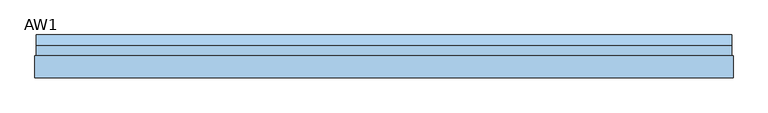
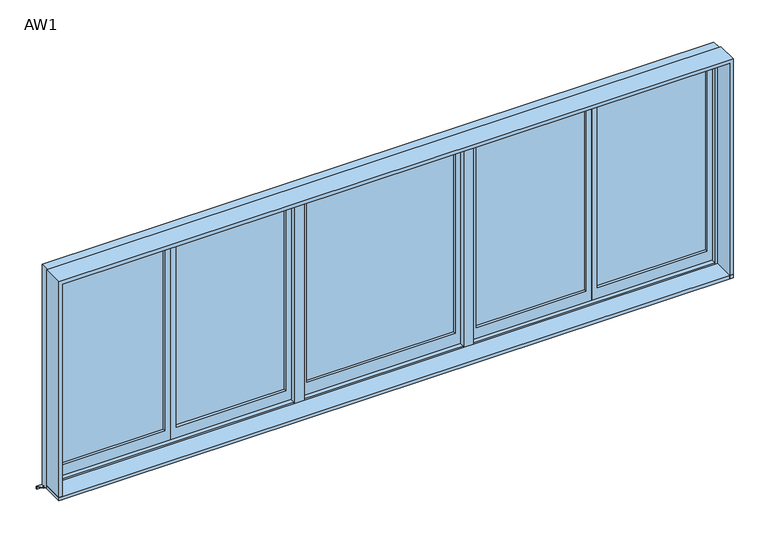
"""IFC4 building model written with IfcOpenShell, lengths in millimetres: window geometry, 営_連窓_両開き戸2+FIX1 : AW1."""

from ifc_helpers import new_model, si_unit, frame, origin, place, context, project, spatial, polyline, outline, extrude, source, transform, mapped, element, save


def aw1_ddd8473e(model_context):
    return source(origin(), model_context, "Body", "SweptSolid", [
        extrude(outline(polyline([(1465.0, 10.0), (680.0, 10.0), (680.0, 15.0), (1465.0, 15.0), (1465.0, 10.0)])), frame((0.0, 0.0, 1180.0), z_axis=(0.0, 0.0, 1.0), x_axis=(1.0, 0.0, 0.0)), (0.0, 0.0, 1.0), 1465.0),
        extrude(outline(polyline([(1100.0, 1505.0), (2685.0, 1505.0), (2685.0, 640.0), (1100.0, 640.0), (1100.0, 1505.0)]), holes=[polyline([(1180.0, 1465.0), (1180.0, 680.0), (2645.0, 680.0), (2645.0, 1465.0), (1180.0, 1465.0)])]), frame((0.0, -10.0, 0.0), z_axis=(0.0, 1.0, 0.0), x_axis=(0.0, 0.0, 1.0)), (0.0, 0.0, 1.0), 30.0),
        extrude(outline(polyline([(2330.0, 10.0), (1545.0, 10.0), (1545.0, 15.0), (2330.0, 15.0), (2330.0, 10.0)])), frame((0.0, 0.0, 1180.0), z_axis=(0.0, 0.0, 1.0), x_axis=(1.0, 0.0, 0.0)), (0.0, 0.0, 1.0), 1465.0),
        extrude(outline(polyline([(1100.0, 2370.0), (2685.0, 2370.0), (2685.0, 1505.0), (1100.0, 1505.0), (1100.0, 2370.0)]), holes=[polyline([(1180.0, 2330.0), (1180.0, 1545.0), (2645.0, 1545.0), (2645.0, 2330.0), (1180.0, 2330.0)])]), frame((0.0, -10.0, 0.0), z_axis=(0.0, 1.0, 0.0), x_axis=(0.0, 0.0, 1.0)), (0.0, 0.0, 1.0), 30.0),
        extrude(outline(polyline([(530.0, 10.0), (-530.0, 10.0), (-530.0, 15.0), (530.0, 15.0), (530.0, 10.0)])), frame((0.0, 0.0, 1190.0), z_axis=(0.0, 0.0, 1.0), x_axis=(1.0, 0.0, 0.0)), (0.0, 0.0, 1.0), 1455.0),
        extrude(outline(polyline([(1100.0, 570.0), (2685.0, 570.0), (2685.0, -570.0), (1100.0, -570.0), (1100.0, 570.0)]), holes=[polyline([(1190.0, 530.0), (1190.0, -530.0), (2645.0, -530.0), (2645.0, 530.0), (1190.0, 530.0)])]), frame((0.0, -10.0, 0.0), z_axis=(0.0, 1.0, 0.0), x_axis=(0.0, 0.0, 1.0)), (0.0, 0.0, 1.0), 30.0),
        extrude(outline(polyline([(-1545.0, 10.0), (-2330.0, 10.0), (-2330.0, 15.0), (-1545.0, 15.0), (-1545.0, 10.0)])), frame((0.0, 0.0, 1180.0), z_axis=(0.0, 0.0, 1.0), x_axis=(1.0, 0.0, 0.0)), (0.0, 0.0, 1.0), 1465.0),
        extrude(outline(polyline([(1100.0, -1505.0), (2685.0, -1505.0), (2685.0, -2370.0), (1100.0, -2370.0), (1100.0, -1505.0)]), holes=[polyline([(1180.0, -1545.0), (1180.0, -2330.0), (2645.0, -2330.0), (2645.0, -1545.0), (1180.0, -1545.0)])]), frame((0.0, -10.0, 0.0), z_axis=(0.0, 1.0, 0.0), x_axis=(0.0, 0.0, 1.0)), (0.0, 0.0, 1.0), 30.0),
        extrude(outline(polyline([(-680.0, 10.0), (-1465.0, 10.0), (-1465.0, 15.0), (-680.0, 15.0), (-680.0, 10.0)])), frame((0.0, 0.0, 1180.0), z_axis=(0.0, 0.0, 1.0), x_axis=(1.0, 0.0, 0.0)), (0.0, 0.0, 1.0), 1465.0),
        extrude(outline(polyline([(1100.0, -640.0), (2685.0, -640.0), (2685.0, -1505.0), (1100.0, -1505.0), (1100.0, -640.0)]), holes=[polyline([(1180.0, -680.0), (1180.0, -1465.0), (2645.0, -1465.0), (2645.0, -680.0), (1180.0, -680.0)])]), frame((0.0, -10.0, 0.0), z_axis=(0.0, 1.0, 0.0), x_axis=(0.0, 0.0, 1.0)), (0.0, 0.0, 1.0), 30.0),
        extrude(outline(polyline([(-570.0, -45.0), (-640.0, -45.0), (-640.0, 25.0), (-570.0, 25.0), (-570.0, -45.0)])), frame((0.0, 0.0, 1090.0), z_axis=(0.0, 0.0, 1.0), x_axis=(1.0, 0.0, 0.0)), (0.0, 0.0, 1.0), 1595.0),
        extrude(outline(polyline([(640.0, -45.0), (570.0, -45.0), (570.0, 25.0), (640.0, 25.0), (640.0, -45.0)])), frame((0.0, 0.0, 1090.0), z_axis=(0.0, 0.0, 1.0), x_axis=(1.0, 0.0, 0.0)), (0.0, 0.0, 1.0), 1595.0),
        extrude(outline(polyline([(2410.0, -195.0), (-2410.0, -195.0), (-2410.0, -45.0), (2410.0, -45.0), (2410.0, -195.0)])), frame((0.0, 0.0, 1065.0), z_axis=(0.0, 0.0, 1.0), x_axis=(1.0, 0.0, 0.0)), (0.0, 0.0, 1.0), 25.0),
        extrude(outline(polyline([(15.0, 1035.0), (100.0, 995.0), (100.0, 975.0), (95.0014518, 975.0), (95.0014518, 991.8262891), (10.0, 1031.8269723), (10.0, 1050.0), (15.0, 1050.0), (15.0, 1035.0)])), frame((-2400.0, 0.0, 0.0), z_axis=(1.0, 0.0, 0.0), x_axis=(0.0, 1.0, 0.0)), (0.0, 0.0, 1.0), 4800.0),
        extrude(outline(polyline([(1065.0, -2410.0), (1065.0, -2385.0), (2695.0, -2385.0), (2695.0, 2385.0), (1065.0, 2385.0), (1065.0, 2410.0), (2720.0, 2410.0), (2720.0, -2410.0), (1065.0, -2410.0)])), frame((0.0, -195.0, 0.0), z_axis=(0.0, 1.0, 0.0), x_axis=(0.0, 0.0, 1.0)), (0.0, 0.0, 1.0), 150.0),
        extrude(outline(polyline([(1050.0, -2400.0), (1050.0, -2370.0), (2685.0, -2370.0), (2685.0, 2370.0), (1050.0, 2370.0), (1050.0, 2400.0), (2715.0, 2400.0), (2715.0, -2400.0), (1050.0, -2400.0)])), frame((0.0, -45.0, 0.0), z_axis=(0.0, 1.0, 0.0), x_axis=(0.0, 0.0, 1.0)), (0.0, 0.0, 1.0), 70.0),
        extrude(outline(polyline([(-45.0, 1050.0), (-45.0, 1100.0), (25.0, 1090.6666667), (25.0, 1050.0), (-45.0, 1050.0)])), frame((-2370.0, 0.0, 0.0), z_axis=(1.0, 0.0, 0.0), x_axis=(0.0, 1.0, 0.0)), (0.0, 0.0, 1.0), 4740.0),
    ])


if __name__ == "__main__":
    model = new_model("IFC4")
    model_context = context("Model", 3, world=origin())
    ifc_project = project(units=[si_unit("LENGTHUNIT", "METRE", prefix="MILLI")], contexts=[model_context])
    site = spatial("IfcSite", under=ifc_project)
    building = spatial("IfcBuilding", under=site)
    placement = place(None, origin())
    aw1_shape = aw1_ddd8473e(model_context)
    element("IfcWindow", 1, ObjectType="営_連窓_両開き戸2+FIX1 : AW1", at=placement, inside=building, context=model_context, shape_type="MappedRepresentation", body=[
        mapped(aw1_shape, transform((0.0, 0.0, 0.0), x_axis=(1.0, 0.0, 0.0), y_axis=(0.0, 1.0, 0.0), z_axis=(0.0, 0.0, 1.0))),
    ])
    save(model, "model.ifc")
